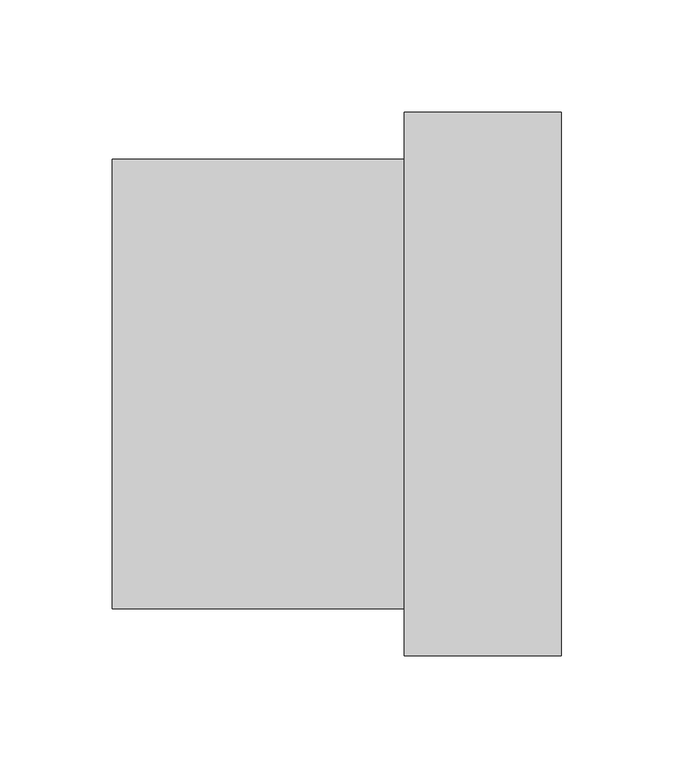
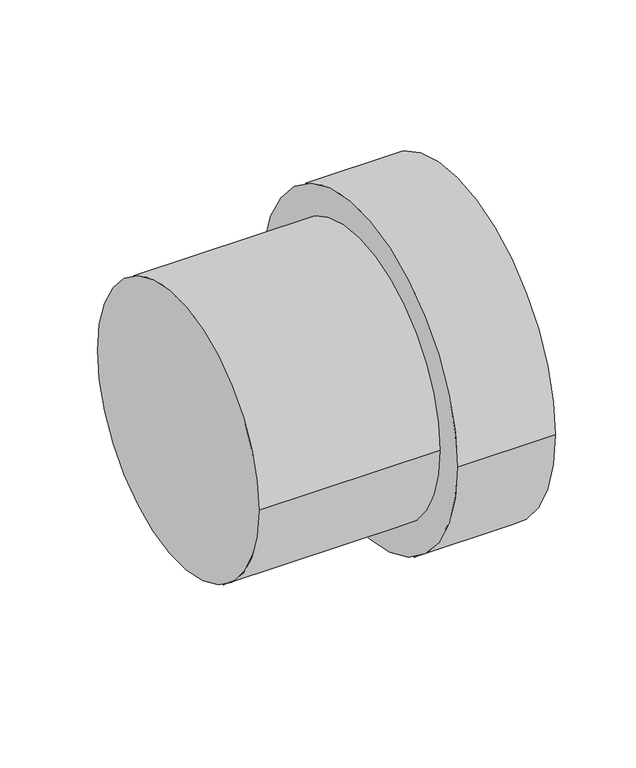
"""IFC4 building model written with IfcOpenShell, lengths in millimetres: pipe fitting geometry, NLRS_52_PIF_UN_PE overgang op gres_geb : DN100-300-352 / ø110-315-352."""

from ifc_helpers import new_model, si_unit, point, frame, origin, origin_2d, place, context, project, spatial, circle_curve, trimmed, segment, composite_curve, outline, extrude, source, transform, mapped, element, save


def pipe_fitting_514cde16(model_context):
    return source(origin(), model_context, "Body", "SweptSolid", [
        extrude(outline(composite_curve([segment(trimmed(circle_curve(origin_2d(), 121.0), [point((-121.0, 0.0))], [point((121.0, 0.0))], False, "CARTESIAN"), True, "CONTINUOUS"), segment(trimmed(circle_curve(origin_2d(), 121.0), [point((121.0, 0.0))], [point((-121.0, 0.0))], False, "CARTESIAN"), True, "CONTINUOUS")], self_intersect=False)), frame((0.0, 0.0, 0.0), z_axis=(1.0, 0.0, 0.0), x_axis=(0.0, 1.0, 0.0)), (0.0, 0.0, 1.0), 70.0),
        extrude(outline(composite_curve([segment(trimmed(circle_curve(origin_2d(), 100.0), [point((-100.0, 0.0))], [point((100.0, 0.0))], False, "CARTESIAN"), True, "CONTINUOUS"), segment(trimmed(circle_curve(origin_2d(), 100.0), [point((100.0, 0.0))], [point((-100.0, 0.0))], False, "CARTESIAN"), True, "CONTINUOUS")], self_intersect=False)), frame((-130.0, 0.0, 0.0), z_axis=(1.0, 0.0, 0.0), x_axis=(0.0, 1.0, 0.0)), (0.0, 0.0, 1.0), 130.0),
    ])


if __name__ == "__main__":
    model = new_model("IFC4")
    model_context = context("Model", 3, world=origin())
    ifc_project = project(units=[si_unit("LENGTHUNIT", "METRE", prefix="MILLI")], contexts=[model_context])
    site = spatial("IfcSite", under=ifc_project)
    building = spatial("IfcBuilding", under=site)
    placement = place(None, origin())
    pipe_fitting_shape = pipe_fitting_514cde16(model_context)
    element("IfcPipeFitting", 1, ObjectType="NLRS_52_PIF_UN_PE overgang op gres_geb : DN100-300-352 / ø110-315-352", at=placement, inside=building, context=model_context, shape_type="MappedRepresentation", body=[
        mapped(pipe_fitting_shape, transform((0.0, 0.0, 0.0), x_axis=(1.0, 0.0, 0.0), y_axis=(0.0, 1.0, 0.0), z_axis=(0.0, 0.0, 1.0))),
    ])
    save(model, "model.ifc")
